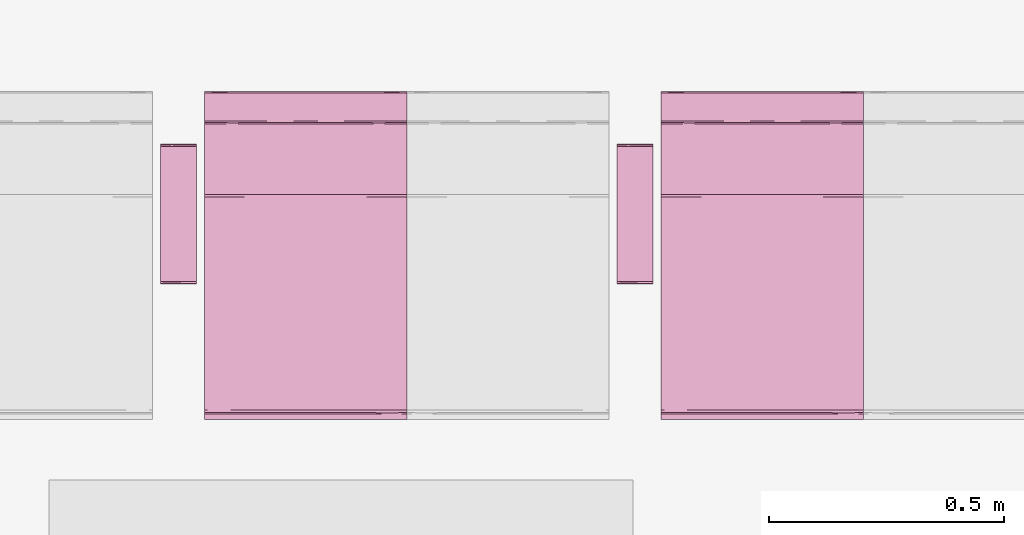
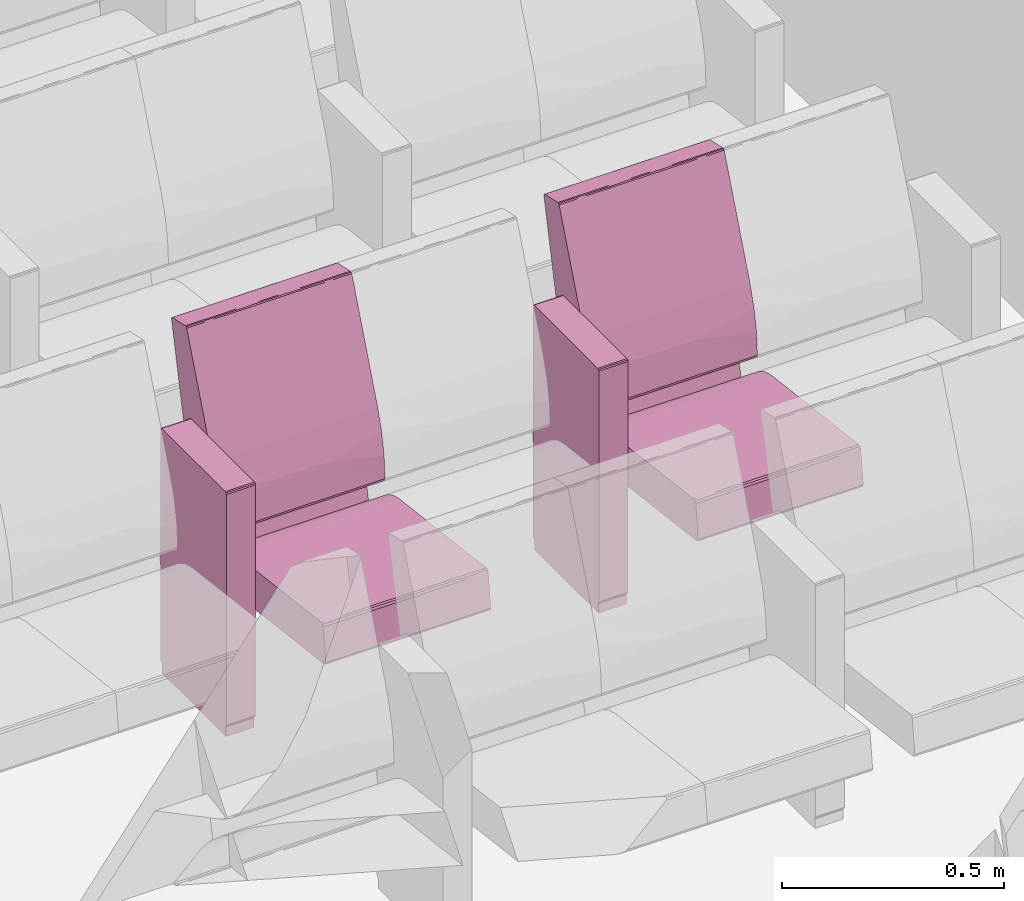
# One storey, part 136 of 155: 2 furnishings.
"""IFC2X3 building model written with IfcOpenShell, lengths in metres."""

from ifc_helpers import new_model, entity, si_unit, converted_unit, derived_unit, direction, frame, origin, place, context, subcontext, project, spatial, faceted_brep, source, transform, mapped, material, material_list, type_object, type_shapes, element, save


model = new_model("IFC2X3")

# Units and contexts
model_context = context("Model", 3, precision=1e-05, world=origin(), true_north=direction((6.12303176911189e-17, 1.0)))
body_context = subcontext(model_context, "Body", "Model", "MODEL_VIEW")
ifc_project = project(units=[si_unit("LENGTHUNIT", "METRE"), si_unit("AREAUNIT", "SQUARE_METRE"), si_unit("VOLUMEUNIT", "CUBIC_METRE"), converted_unit("PLANEANGLEUNIT", "DEGREE", entity("IfcRatioMeasure", 0.0174532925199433), si_unit("PLANEANGLEUNIT", "RADIAN"), dimensions=[0, 0, 0, 0, 0, 0, 0]), si_unit("MASSUNIT", "GRAM", prefix="KILO"), derived_unit("MASSDENSITYUNIT", [(si_unit("MASSUNIT", "GRAM", prefix="KILO"), 1), (si_unit("LENGTHUNIT", "METRE"), -3)]), si_unit("TIMEUNIT", "SECOND"), si_unit("FREQUENCYUNIT", "HERTZ"), si_unit("THERMODYNAMICTEMPERATUREUNIT", "DEGREE_CELSIUS"), derived_unit("THERMALTRANSMITTANCEUNIT", [(si_unit("MASSUNIT", "GRAM", prefix="KILO"), 1), (si_unit("THERMODYNAMICTEMPERATUREUNIT", "KELVIN"), -1), (si_unit("TIMEUNIT", "SECOND"), -3)]), derived_unit("VOLUMETRICFLOWRATEUNIT", [(si_unit("LENGTHUNIT", "METRE"), 3), (si_unit("TIMEUNIT", "SECOND"), -1)]), si_unit("ELECTRICCURRENTUNIT", "AMPERE"), si_unit("ELECTRICVOLTAGEUNIT", "VOLT"), si_unit("POWERUNIT", "WATT"), si_unit("FORCEUNIT", "NEWTON", prefix="KILO"), si_unit("ILLUMINANCEUNIT", "LUX"), si_unit("LUMINOUSFLUXUNIT", "LUMEN"), si_unit("LUMINOUSINTENSITYUNIT", "CANDELA"), derived_unit("USERDEFINED", [(si_unit("MASSUNIT", "GRAM", prefix="KILO"), -1), (si_unit("LENGTHUNIT", "METRE"), -2), (si_unit("TIMEUNIT", "SECOND"), 3), (si_unit("LUMINOUSFLUXUNIT", "LUMEN"), 1)]), derived_unit("LINEARVELOCITYUNIT", [(si_unit("LENGTHUNIT", "METRE"), 1), (si_unit("TIMEUNIT", "SECOND"), -1)]), si_unit("PRESSUREUNIT", "PASCAL"), derived_unit("USERDEFINED", [(si_unit("LENGTHUNIT", "METRE"), -2), (si_unit("MASSUNIT", "GRAM", prefix="KILO"), 1), (si_unit("TIMEUNIT", "SECOND"), -2)])], contexts=[model_context])

# Site, building, storey, space
site_placement = place(None, frame((26.9889013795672, -17.5624287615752, 0.0)))
site = spatial("IfcSite", under=ifc_project, at=site_placement, Name="Default", CompositionType="ELEMENT")
building_placement = place(site_placement, origin())
building = spatial("IfcBuilding", under=site, at=building_placement, Name="C. C. L. Monsenhor Antônio Sampaio", CompositionType="ELEMENT")
storey_placement = place(building_placement, frame((0.0, 0.0, 1.19999999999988)))
storey = spatial("IfcBuildingStorey", under=building, at=storey_placement, Name="Nível 1.2", CompositionType="ELEMENT", Elevation=1.19999999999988)
space_placement = place(storey_placement, origin())
space = spatial("IfcSpace", under=storey, at=space_placement, Name="94", CompositionType="ELEMENT", InteriorOrExteriorSpace="INTERNAL")

# Furnishings
ifc_material_1 = material(Name="V9 - V9 - Ecopelle_672_658")
ifc_material_2 = material(Name="V9 - V9 - RAL_9006_Grigio")
ifc_material_list_1 = material_list([ifc_material_1, ifc_material_2])
ifc_material_list_2 = material_list([ifc_material_1, ifc_material_2])
furniture_type = type_object("IfcFurnitureType", Name="Cadeira auditório", material=ifc_material_list_2)
shared_shape = source(origin(), body_context, "Body", "Brep", [
    faceted_brep([(0.405536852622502, 0.156348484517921, 0.339809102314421), (0.410560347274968, 0.131924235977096, 0.34246450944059), (0.405536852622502, 0.1075, 0.339809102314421), (0.405536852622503, 0.0537499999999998, 0.339809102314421), (0.410597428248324, 0.084060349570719, 0.342506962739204), (0.41079981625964, 0.0179166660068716, 0.342749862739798), (0.405536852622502, 0.215, 0.339809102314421), (0.410248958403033, 0.173608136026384, 0.342130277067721), (0.412515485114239, 0.185674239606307, 0.348529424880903), (0.412515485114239, 0.143333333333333, 0.348529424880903), (0.410560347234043, -0.131924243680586, 0.342464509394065), (0.405536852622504, -0.156348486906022, 0.33980910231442), (0.405536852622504, -0.1075, 0.33980910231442), (0.405536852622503, 0.0, 0.33980910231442), (0.41251548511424, 0.0, 0.348529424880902), (0.411170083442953, -0.0341365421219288, 0.343251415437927), (0.41059742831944, -0.0840603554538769, 0.342506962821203), (0.41251548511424, -0.143333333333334, 0.348529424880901), (0.412515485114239, 0.0358333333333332, 0.348529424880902), (0.412515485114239, 0.0716666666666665, 0.348529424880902), (0.405536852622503, -0.0537500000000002, 0.33980910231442), (0.412515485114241, -0.185674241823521, 0.348529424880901), (0.410799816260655, -0.215, 0.342749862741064), (0.410248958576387, -0.173608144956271, 0.342130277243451), (0.410799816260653, 0.215, 0.342749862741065), (0.412515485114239, 0.215, 0.348529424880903), (0.412515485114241, -0.215, 0.348529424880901), (0.41251548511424, -0.0716666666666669, 0.348529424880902), (0.405536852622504, -0.215, 0.33980910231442), (-0.0557900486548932, -0.215, 0.28268145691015), (-0.055790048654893, -0.168631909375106, 0.282681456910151), (-0.0557900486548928, -0.138065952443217, 0.282681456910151), (-0.0557900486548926, -0.107499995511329, 0.282681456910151), (-0.0557900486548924, -0.0806249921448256, 0.282681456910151), (-0.0557900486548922, -0.0537499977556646, 0.282681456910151), (-0.0557900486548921, -0.0268750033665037, 0.282681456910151), (-0.0557900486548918, 0.0, 0.28268145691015), (-0.0557900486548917, 0.0268749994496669, 0.282681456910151), (-0.0557900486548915, 0.0537499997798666, 0.282681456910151), (-0.0557900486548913, 0.0806250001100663, 0.282681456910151), (-0.0557900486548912, 0.107499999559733, 0.282681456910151), (-0.055790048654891, 0.134374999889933, 0.282681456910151), (-0.0557900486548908, 0.161250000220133, 0.282681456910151), (-0.0557900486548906, 0.1881249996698, 0.282681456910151), (-0.0557900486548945, 0.215, 0.28268145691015), (-0.0594787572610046, -0.0152829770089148, 0.283700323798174), (-0.0613666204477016, 0.0, 0.287029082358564), (-0.0594787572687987, 0.0179017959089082, 0.283700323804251), (-0.0613666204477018, 0.191815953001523, 0.287029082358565), (-0.0613666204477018, 0.215, 0.287029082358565), (-0.0594787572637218, 0.215, 0.283700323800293), (-0.0593340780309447, 0.0671874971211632, 0.283591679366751), (-0.0613666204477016, 0.030565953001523, 0.287029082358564), (-0.0594787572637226, -0.215, 0.283700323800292), (-0.0593337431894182, -0.184174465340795, 0.283591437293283), (-0.0613666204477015, -0.122263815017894, 0.287029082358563), (-0.0613666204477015, -0.0916978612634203, 0.287029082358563), (-0.0613666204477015, -0.0611319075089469, 0.287029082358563), (-0.0593023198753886, -0.0940625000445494, 0.283568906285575), (-0.059382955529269, 0.118123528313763, 0.28362747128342), (-0.0613666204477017, 0.122263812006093, 0.287029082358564), (-0.0597338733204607, 0.147039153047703, 0.283913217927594), (-0.0613666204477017, 0.168631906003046, 0.287029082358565), (-0.0592501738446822, 0.180223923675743, 0.283532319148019), (-0.0588783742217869, 0.0926899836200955, 0.283298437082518), (-0.0613666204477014, -0.215, 0.287029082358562), (-0.0613666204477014, -0.168631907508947, 0.287029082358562), (-0.0592576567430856, -0.123736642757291, 0.283537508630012), (-0.0594787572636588, -0.153348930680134, 0.283700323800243), (-0.0613666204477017, 0.0916978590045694, 0.287029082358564), (-0.0613666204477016, -0.0305659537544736, 0.287029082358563), (-0.059645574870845, -0.045848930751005, 0.283836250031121), (-0.0613666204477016, 0.0611319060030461, 0.287029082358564), (-0.069340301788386, -0.215, 0.351419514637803), (-0.0693403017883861, -0.143333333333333, 0.351419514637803), (-0.0693403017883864, -0.0716666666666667, 0.351419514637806), (-0.0693403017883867, 0.0, 0.351419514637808), (-0.069340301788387, 0.0716666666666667, 0.351419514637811), (-0.0693403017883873, 0.143333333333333, 0.351419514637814), (-0.0693403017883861, 0.215, 0.351419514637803), (-0.0597085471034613, 0.0, 0.37476954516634), (-0.0645543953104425, 0.112272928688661, 0.369803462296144), (-0.0653387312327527, 0.0126787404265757, 0.368680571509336), (-0.0681665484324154, -0.0888707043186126, 0.36292533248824), (-0.0655136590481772, -0.10440004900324, 0.368411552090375), (-0.0694879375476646, 0.0590582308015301, 0.356377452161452), (-0.0695056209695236, -0.125492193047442, 0.356093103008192), (-0.0597085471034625, -0.110316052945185, 0.374769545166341), (-0.0690003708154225, 0.132942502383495, 0.359900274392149), (-0.0672851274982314, 0.108066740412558, 0.365148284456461), (-0.0676206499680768, 0.215, 0.364371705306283), (-0.0686241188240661, 0.215, 0.356813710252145), (-0.0686241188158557, -0.214999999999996, 0.356813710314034), (-0.0686999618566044, 0.0358333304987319, 0.36116674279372), (-0.0694502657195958, -0.0358333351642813, 0.356863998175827), (-0.0676206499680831, -0.214999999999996, 0.364371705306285), (-0.0636645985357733, -0.214999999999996, 0.369570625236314), (-0.0597085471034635, -0.214999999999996, 0.374769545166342), (-0.0597085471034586, 0.215, 0.374769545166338), (-0.0636645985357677, 0.215, 0.36957062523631), (-0.0597085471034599, 0.110316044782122, 0.374769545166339), (-0.0324117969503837, 0.215, 0.390639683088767), (-0.0324117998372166, 0.0436847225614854, 0.39063968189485), (-0.0018793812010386, 0.215, 0.398686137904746), (-0.041847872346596, -0.0856576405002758, 0.386239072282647), (-0.0324117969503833, -0.215, 0.390639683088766), (-0.00187938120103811, -0.215, 0.398686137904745), (-0.00187938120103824, -0.102488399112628, 0.398686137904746), (-0.0219042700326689, -0.0570631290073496, 0.394412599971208), (-0.00187938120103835, 0.0, 0.398686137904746), (0.392202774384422, 0.215, 0.447486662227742), (0.392202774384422, -0.215, 0.447486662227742), (0.392202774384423, -0.156349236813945, 0.447486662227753), (0.392202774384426, -0.107499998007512, 0.447486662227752), (0.392202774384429, -0.0537500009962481, 0.44748666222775), (0.392202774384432, 0.0, 0.447486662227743), (0.392202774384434, 0.0537499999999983, 0.447486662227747), (0.392202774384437, 0.107499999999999, 0.447486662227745), (0.392202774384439, 0.156349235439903, 0.447486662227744), (0.398104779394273, -0.131924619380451, 0.445856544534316), (0.401125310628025, -0.0976984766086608, 0.440530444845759), (0.397860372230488, -0.0827732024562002, 0.446039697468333), (0.401125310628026, -0.215000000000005, 0.440530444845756), (0.401125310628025, -0.156349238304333, 0.440530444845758), (0.397373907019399, -0.173462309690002, 0.446363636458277), (0.398104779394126, -0.215000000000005, 0.445856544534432), (0.397860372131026, 0.0827731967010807, 0.446039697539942), (0.398104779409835, 0.131924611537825, 0.445856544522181), (0.398104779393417, -0.0237489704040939, 0.445856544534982), (0.398104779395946, 0.0268749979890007, 0.445856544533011), (0.401125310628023, 0.0488492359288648, 0.440530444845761), (0.401125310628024, -0.0488492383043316, 0.440530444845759), (0.398774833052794, 0.173462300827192, 0.445271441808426), (0.401125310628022, 0.097698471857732, 0.440530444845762), (0.401125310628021, 0.215, 0.440530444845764), (0.39810477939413, 0.215, 0.445856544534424), (0.401125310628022, 0.156349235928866, 0.440530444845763), (0.401125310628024, 0.0, 0.44053044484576)], [[[0, 1, 2]], [[3, 4, 5]], [[6, 7, 0]], [[7, 8, 9]], [[10, 11, 12]], [[3, 5, 13]], [[14, 15, 5]], [[16, 17, 10]], [[9, 1, 7]], [[18, 5, 4]], [[4, 9, 19, 18]], [[9, 4, 1]], [[2, 1, 4]], [[13, 15, 20]], [[21, 22, 23]], [[5, 18, 14]], [[24, 25, 8]], [[22, 21, 26]], [[24, 7, 6]], [[23, 11, 10]], [[20, 15, 16]], [[3, 2, 4]], [[14, 27, 15]], [[5, 15, 13]], [[27, 17, 16]], [[10, 12, 16]], [[21, 23, 17]], [[20, 16, 12]], [[15, 27, 16]], [[7, 1, 0]], [[28, 11, 23]], [[8, 7, 24]], [[23, 10, 17]], [[28, 23, 22]], [[28, 29, 30, 31, 32, 33, 34, 35, 36, 37, 38, 39, 40, 41, 42, 43, 44, 6, 0, 2, 3, 13, 20, 12, 11]], [[45, 46, 47]], [[48, 49, 50]], [[51, 47, 52]], [[29, 53, 54]], [[55, 56, 57, 58]], [[59, 60, 61]], [[61, 62, 63]], [[51, 64, 39]], [[65, 66, 54]], [[31, 67, 32]], [[45, 47, 38, 37, 36, 35]], [[68, 31, 30]], [[43, 50, 44]], [[63, 42, 61]], [[48, 50, 63]], [[64, 69, 59]], [[68, 54, 66]], [[63, 62, 48]], [[50, 43, 63]], [[67, 55, 58]], [[61, 42, 41]], [[45, 70, 46]], [[55, 68, 66]], [[71, 33, 58]], [[71, 57, 70]], [[41, 40, 59]], [[60, 62, 61]], [[71, 35, 34, 33]], [[35, 71, 45]], [[47, 46, 52]], [[45, 71, 70]], [[58, 57, 71]], [[32, 58, 33]], [[31, 68, 67]], [[54, 68, 30]], [[29, 54, 30]], [[54, 53, 65]], [[55, 67, 68]], [[32, 67, 58]], [[51, 52, 72, 69]], [[43, 42, 63]], [[41, 59, 61]], [[47, 51, 38]], [[40, 39, 64]], [[38, 51, 39]], [[69, 60, 59]], [[69, 64, 51]], [[40, 64, 59]], [[65, 73, 74, 75, 76, 77, 78, 79, 49, 48, 62, 60, 69, 72, 52, 46, 70, 57, 56, 55, 66]], [[80, 81, 82]], [[82, 83, 84]], [[78, 77, 76, 85]], [[86, 75, 74]], [[84, 80, 82]], [[80, 84, 87]], [[88, 89, 90]], [[91, 79, 78]], [[74, 73, 92]], [[85, 88, 91]], [[81, 89, 82]], [[93, 94, 83]], [[94, 86, 83]], [[85, 76, 94]], [[92, 86, 74]], [[85, 94, 93]], [[83, 92, 95]], [[75, 94, 76]], [[93, 83, 82]], [[95, 96, 84]], [[88, 85, 93]], [[96, 97, 87]], [[98, 99, 100]], [[78, 85, 91]], [[89, 88, 93]], [[90, 91, 88]], [[93, 82, 89]], [[81, 99, 89]], [[99, 90, 89]], [[100, 81, 80]], [[100, 99, 81]], [[83, 86, 92]], [[75, 86, 94]], [[95, 84, 83]], [[87, 84, 96]], [[101, 102, 103]], [[104, 80, 87, 97]], [[105, 106, 107]], [[107, 108, 105]], [[103, 102, 109]], [[104, 102, 80]], [[104, 108, 102]], [[98, 102, 101]], [[105, 104, 97]], [[105, 108, 104]], [[102, 98, 100, 80]], [[109, 108, 107]], [[109, 102, 108]], [[110, 103, 109, 107, 106, 111, 112, 113, 114, 115, 116, 117, 118]], [[119, 120, 121]], [[122, 123, 124]], [[111, 125, 124]], [[117, 116, 126]], [[124, 119, 112]], [[113, 112, 119]], [[127, 118, 117]], [[115, 114, 128, 129, 116]], [[129, 130, 126]], [[121, 131, 128]], [[127, 132, 118]], [[110, 118, 132]], [[127, 126, 133]], [[119, 124, 123]], [[134, 135, 132]], [[136, 132, 127]], [[120, 119, 123]], [[133, 136, 127]], [[137, 130, 129, 128, 131]], [[126, 127, 117]], [[130, 133, 126]], [[113, 119, 121]], [[129, 126, 116]], [[128, 114, 121]], [[114, 113, 121]], [[131, 121, 120]], [[111, 124, 112]], [[124, 125, 122]], [[134, 132, 136]], [[132, 135, 110]], [[19, 9, 8, 25, 134, 136, 133, 130, 137, 131, 120, 123, 122, 26, 21, 17, 27, 14, 18]], [[65, 53, 29, 28, 22, 26, 122, 125, 111, 106, 105, 97, 96, 95, 92, 73]], [[98, 101, 103, 110, 135, 134, 25, 24, 6, 44, 50, 49, 79, 91, 90, 99]]]),
    faceted_brep([(0.123144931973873, -0.283972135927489, 0.673627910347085), (0.12334838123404, -0.259944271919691, 0.6734355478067), (0.119812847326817, -0.27, 0.674900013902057), (0.124812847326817, -0.27, 0.669900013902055), (0.12334838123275, -0.232, 0.673435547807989), (0.119812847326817, -0.232, 0.674900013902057), (0.124812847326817, -0.308, 0.669900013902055), (0.119812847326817, -0.308, 0.674900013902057), (0.124812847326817, -0.249888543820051, 0.669900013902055), (0.124812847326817, -0.232, 0.669900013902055), (0.12334838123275, -0.308, 0.673435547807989), (0.124812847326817, -0.27, 0.035), (0.124812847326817, -0.232, 0.035), (0.124812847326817, -0.308, 0.0350000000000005), (0.123540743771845, -0.283972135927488, 0.0316679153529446), (0.12334838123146, -0.25994427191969, 0.0314644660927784), (0.119812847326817, -0.27, 0.0300000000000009), (0.12334838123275, -0.232, 0.0314644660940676), (0.119812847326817, -0.308, 0.0300000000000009), (0.119812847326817, -0.249888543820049, 0.030000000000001), (0.119812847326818, -0.232, 0.030000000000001), (0.123348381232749, -0.308, 0.0314644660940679), (-0.167179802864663, -0.308, 0.0300000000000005), (-0.167179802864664, -0.27, 0.0300000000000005), (-0.167179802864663, -0.232, 0.0300000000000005), (-0.17051188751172, -0.283972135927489, 0.0312721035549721), (-0.170715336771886, -0.25994427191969, 0.0314644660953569), (-0.172179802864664, -0.27, 0.0350000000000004), (-0.170715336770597, -0.232, 0.0314644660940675), (-0.172179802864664, -0.308, 0.0350000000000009), (-0.172179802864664, -0.24988854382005, 0.0350000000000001), (-0.172179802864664, -0.232, 0.0349999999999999), (-0.170715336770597, -0.308, 0.0314644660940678), (-0.172179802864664, -0.308, 0.669900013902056), (-0.172179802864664, -0.27, 0.669900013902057), (-0.172179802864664, -0.232, 0.669900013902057), (-0.170907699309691, -0.283972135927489, 0.673232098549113), (-0.170715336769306, -0.259944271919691, 0.673435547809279), (-0.167179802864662, -0.27, 0.674900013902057), (-0.170715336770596, -0.232, 0.67343554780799), (-0.167179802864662, -0.308, 0.674900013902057), (-0.167179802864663, -0.249888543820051, 0.674900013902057), (-0.167179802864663, -0.232, 0.674900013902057), (-0.170715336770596, -0.308, 0.67343554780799)], [[[0, 1, 2]], [[1, 0, 3]], [[1, 4, 5, 2]], [[6, 3, 0]], [[7, 0, 2]], [[4, 1, 3, 8, 9]], [[10, 0, 7]], [[0, 10, 6]], [[11, 12, 9, 8, 3, 6, 13]], [[14, 15, 11]], [[15, 14, 16]], [[15, 17, 12, 11]], [[18, 16, 14]], [[13, 14, 11]], [[17, 15, 16, 19, 20]], [[21, 14, 13]], [[14, 21, 18]], [[18, 22, 23, 24, 20, 19, 16]], [[25, 26, 23]], [[26, 25, 27]], [[26, 28, 24, 23]], [[29, 27, 25]], [[22, 25, 23]], [[28, 26, 27, 30, 31]], [[32, 25, 22]], [[25, 32, 29]], [[27, 29, 33, 34, 35, 31, 30]], [[36, 37, 34]], [[37, 36, 38]], [[37, 39, 35, 34]], [[40, 38, 36]], [[33, 36, 34]], [[39, 37, 38, 41, 42]], [[43, 36, 33]], [[36, 43, 40]], [[40, 7, 2, 5, 42, 41, 38]], [[35, 39, 42, 5, 4, 9, 12, 17, 20, 24, 28, 31]], [[29, 32, 22, 18, 21, 13, 6, 10, 7, 40, 43, 33]]]),
    faceted_brep([(-0.0695672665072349, 0.215, 0.476508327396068), (-0.074405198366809, 0.0524423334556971, 0.506888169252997), (-0.0655618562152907, 0.215, 0.415143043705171), (-0.0744051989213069, -0.0780075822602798, 0.506888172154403), (-0.0655618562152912, 0.0, 0.415143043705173), (-0.0655618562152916, -0.215, 0.415143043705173), (-0.0655618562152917, -0.1075, 0.415143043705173), (-0.0655618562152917, 0.1075, 0.415143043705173), (-0.0695672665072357, -0.215, 0.476508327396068), (-0.081111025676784, -0.215, 0.536911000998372), (-0.0811110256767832, 0.215, 0.536911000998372), (-0.100016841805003, 0.215, 0.595428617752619), (-0.100016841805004, 0.0, 0.595428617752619), (-0.100016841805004, -0.215, 0.595428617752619), (-0.0698317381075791, 0.0358333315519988, 0.406528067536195), (-0.0792851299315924, 0.0, 0.404772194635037), (-0.0792851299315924, 0.0716666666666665, 0.404772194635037), (-0.0792851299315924, -0.215, 0.404772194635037), (-0.0792851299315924, -0.143333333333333, 0.404772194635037), (-0.0698317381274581, -0.215, 0.406528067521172), (-0.0792851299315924, 0.143333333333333, 0.404772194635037), (-0.0792851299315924, 0.215, 0.404772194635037), (-0.0698317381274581, 0.215, 0.406528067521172), (-0.0694171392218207, 0.140338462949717, 0.406857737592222), (-0.0708115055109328, -0.0356393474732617, 0.405868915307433), (-0.0703502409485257, -0.107500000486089, 0.406159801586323), (-0.0792851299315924, -0.0716666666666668, 0.404772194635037), (-0.163837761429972, -0.215, 0.420611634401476), (-0.163837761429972, 0.215, 0.420611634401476), (-0.123612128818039, 0.215, 0.235917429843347), (-0.123612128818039, -0.215, 0.235917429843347), (-0.142059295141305, -0.215, 0.231899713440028), (-0.142059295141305, 0.215, 0.231899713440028), (-0.235388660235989, -0.215, 0.652619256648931), (-0.235388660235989, 0.215, 0.652619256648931), (-0.28428001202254, -0.215, 0.873004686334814), (-0.284280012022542, -0.191295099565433, 0.873004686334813), (-0.284280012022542, -0.161249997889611, 0.873004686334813), (-0.284280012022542, -0.134374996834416, 0.873004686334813), (-0.284280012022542, -0.107499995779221, 0.873004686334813), (-0.284280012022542, -0.0806249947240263, 0.873004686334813), (-0.284280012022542, -0.0537499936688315, 0.873004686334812), (-0.284280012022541, -0.0268749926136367, 0.873004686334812), (-0.28428001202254, 0.0, 0.873004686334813), (-0.284280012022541, 0.0268749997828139, 0.873004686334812), (-0.284280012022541, 0.0537500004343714, 0.873004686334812), (-0.284280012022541, 0.0806250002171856, 0.873004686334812), (-0.284280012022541, 0.1075, 0.873004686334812), (-0.284280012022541, 0.134374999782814, 0.873004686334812), (-0.28428001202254, 0.161249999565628, 0.873004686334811), (-0.28428001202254, 0.191295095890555, 0.873004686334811), (-0.28428001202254, 0.215, 0.873004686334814), (-0.283746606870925, 0.0872244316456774, 0.876674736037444), (-0.283504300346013, 0.0569644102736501, 0.877068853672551), (-0.283567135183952, -0.15546176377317, 0.876973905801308), (-0.283641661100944, -0.12093750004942, 0.87685511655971), (-0.283567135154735, 0.155461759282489, 0.876973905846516), (-0.28330409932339, 0.185293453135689, 0.877344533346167), (-0.283641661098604, 0.0179166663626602, 0.876855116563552), (-0.283641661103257, -0.0136463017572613, 0.876855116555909), (-0.280514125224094, -0.0358333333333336, 0.879190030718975), (-0.280514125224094, 0.0, 0.879190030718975), (-0.280514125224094, 0.0358333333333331, 0.879190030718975), (-0.280514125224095, -0.143333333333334, 0.879190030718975), (-0.280514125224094, -0.1075, 0.879190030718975), (-0.280514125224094, -0.071666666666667, 0.879190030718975), (-0.283746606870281, -0.0872244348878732, 0.876674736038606), (-0.280514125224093, 0.0716666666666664, 0.879190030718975), (-0.280514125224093, 0.1075, 0.879190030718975), (-0.283641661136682, 0.120937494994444, 0.876855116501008), (-0.280514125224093, 0.143333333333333, 0.879190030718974), (-0.283641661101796, 0.215, 0.876855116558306), (-0.283641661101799, -0.215, 0.876855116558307), (-0.283304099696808, -0.18529345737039, 0.877344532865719), (-0.280514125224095, -0.167590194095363, 0.879190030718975), (-0.280514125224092, 0.215, 0.879190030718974), (-0.280514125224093, 0.167590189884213, 0.879190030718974), (-0.280514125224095, -0.215, 0.879190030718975), (-0.283504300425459, -0.0569644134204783, 0.8770688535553), (-0.22111253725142, 0.215, 0.892176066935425), (-0.22111253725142, -0.215, 0.892176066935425), (-0.221112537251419, -0.191815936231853, 0.892176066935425), (-0.221112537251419, -0.161250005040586, 0.892176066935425), (-0.221112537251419, -0.134375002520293, 0.892176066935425), (-0.221112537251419, -0.1075, 0.892176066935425), (-0.221112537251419, -0.080624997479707, 0.892176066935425), (-0.221112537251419, -0.0537499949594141, 0.892176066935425), (-0.221112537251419, -0.0268750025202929, 0.892176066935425), (-0.221112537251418, 0.0, 0.892176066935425), (-0.221112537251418, 0.0268750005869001, 0.892176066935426), (-0.221112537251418, 0.05375000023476, 0.892176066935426), (-0.221112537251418, 0.0806249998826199, 0.892176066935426), (-0.221112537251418, 0.10749999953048, 0.892176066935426), (-0.221112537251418, 0.13437499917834, 0.892176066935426), (-0.221112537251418, 0.16124999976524, 0.892176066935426), (-0.221112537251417, 0.19181594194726, 0.892176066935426), (-0.215419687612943, 0.0, 0.889191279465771), (-0.215419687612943, 0.0358333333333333, 0.889191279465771), (-0.217722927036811, 0.0162353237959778, 0.891719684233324), (-0.217722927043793, -0.0134375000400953, 0.891719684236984), (-0.215419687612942, -0.191815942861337, 0.889191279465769), (-0.215419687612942, -0.168631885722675, 0.889191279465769), (-0.217722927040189, -0.182482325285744, 0.891719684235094), (-0.217722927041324, -0.215, 0.891719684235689), (-0.215419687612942, -0.215, 0.889191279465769), (-0.215419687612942, -0.1075, 0.88919127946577), (-0.215419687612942, -0.0716666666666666, 0.88919127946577), (-0.217722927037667, -0.0912646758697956, 0.891719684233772), (-0.217722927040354, -0.120937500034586, 0.89171968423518), (-0.215419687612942, -0.143333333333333, 0.88919127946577), (-0.215419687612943, 0.191815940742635, 0.889191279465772), (-0.215419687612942, 0.215, 0.889191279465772), (-0.217722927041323, 0.215, 0.89171968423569), (-0.217722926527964, 0.190103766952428, 0.891719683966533), (-0.217722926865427, 0.0912646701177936, 0.891719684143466), (-0.217816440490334, 0.0647800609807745, 0.891767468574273), (-0.215419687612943, 0.0716666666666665, 0.889191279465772), (-0.217816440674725, -0.0647800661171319, 0.891767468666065), (-0.2179983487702, -0.0390825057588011, 0.891853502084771), (-0.217558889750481, -0.155982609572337, 0.891629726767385), (-0.217722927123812, 0.120937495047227, 0.891719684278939), (-0.215419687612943, 0.16863188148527, 0.889191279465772), (-0.215419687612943, 0.143333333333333, 0.889191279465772), (-0.217558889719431, 0.15598260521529, 0.891629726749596), (-0.215419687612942, -0.0358333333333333, 0.889191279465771), (-0.215419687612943, 0.1075, 0.889191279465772), (-0.218257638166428, 0.0404491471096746, 0.891961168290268)], [[[0, 1, 2]], [[1, 3, 4]], [[3, 5, 6, 4]], [[1, 4, 7, 2]], [[5, 3, 8]], [[8, 3, 9]], [[0, 10, 1]], [[11, 12, 1]], [[3, 13, 9]], [[3, 12, 13]], [[11, 1, 10]], [[3, 1, 12]], [[14, 15, 16]], [[17, 18, 19]], [[20, 21, 22]], [[2, 23, 22]], [[14, 7, 4]], [[14, 24, 15]], [[6, 25, 24]], [[22, 23, 20]], [[14, 23, 7]], [[19, 6, 5]], [[4, 24, 14]], [[16, 23, 14]], [[16, 20, 23]], [[26, 25, 18]], [[25, 19, 18]], [[15, 24, 26]], [[23, 2, 7]], [[19, 25, 6]], [[26, 24, 25]], [[6, 24, 4]], [[15, 26, 18, 17, 27, 28, 21, 20, 16]], [[29, 28, 27, 30]], [[30, 31, 32, 29]], [[32, 31, 33, 34]], [[34, 33, 35, 36, 37, 38, 39, 40, 41, 42, 43, 44, 45, 46, 47, 48, 49, 50, 51]], [[52, 46, 53]], [[38, 54, 55]], [[56, 57, 49]], [[58, 59, 60, 61, 62]], [[63, 64, 55]], [[64, 65, 66]], [[52, 67, 68]], [[69, 70, 56]], [[49, 57, 50]], [[38, 55, 39]], [[71, 51, 50]], [[36, 35, 72]], [[59, 58, 44, 43, 42]], [[73, 74, 54]], [[55, 66, 39]], [[75, 57, 76]], [[77, 74, 73]], [[69, 52, 68]], [[37, 36, 73]], [[54, 74, 63]], [[56, 76, 57]], [[36, 72, 73]], [[75, 71, 57]], [[70, 76, 56]], [[52, 69, 47]], [[48, 47, 69]], [[42, 78, 59]], [[66, 55, 64]], [[50, 57, 71]], [[73, 54, 37]], [[77, 73, 72]], [[48, 69, 56]], [[56, 49, 48]], [[69, 68, 70]], [[53, 46, 45, 44]], [[58, 62, 53]], [[53, 44, 58]], [[38, 37, 54]], [[63, 55, 54]], [[78, 66, 65]], [[78, 40, 66]], [[67, 52, 53]], [[78, 42, 41, 40]], [[65, 60, 78]], [[59, 78, 60]], [[52, 47, 46]], [[40, 39, 66]], [[62, 67, 53]], [[79, 75, 76, 70, 68, 67, 62, 61, 60, 65, 64, 63, 74, 77, 80, 81, 82, 83, 84, 85, 86, 87, 88, 89, 90, 91, 92, 93, 94, 95]], [[96, 97, 98, 99]], [[100, 101, 102, 103, 104]], [[105, 106, 107, 108, 109]], [[110, 111, 112]], [[113, 112, 95]], [[114, 115, 116]], [[117, 118, 86]], [[82, 119, 83]], [[102, 82, 81, 80, 103]], [[112, 79, 95]], [[108, 107, 85, 84, 83]], [[88, 87, 99, 98, 89]], [[119, 101, 109]], [[93, 92, 120]], [[117, 85, 107]], [[113, 121, 110]], [[122, 121, 123]], [[113, 94, 123]], [[124, 99, 118]], [[122, 123, 120]], [[108, 119, 109]], [[113, 110, 112]], [[102, 101, 119]], [[119, 108, 83]], [[114, 125, 120]], [[123, 94, 93]], [[93, 120, 123]], [[114, 120, 92]], [[122, 120, 125]], [[117, 107, 106]], [[114, 92, 91]], [[116, 125, 114]], [[115, 91, 90]], [[85, 117, 86]], [[126, 89, 98]], [[117, 106, 124]], [[118, 99, 87]], [[124, 96, 99]], [[97, 116, 115]], [[97, 115, 126]], [[86, 118, 87]], [[124, 118, 117]], [[91, 115, 114]], [[115, 90, 126]], [[89, 126, 90]], [[97, 126, 98]], [[82, 102, 119]], [[94, 113, 95]], [[121, 113, 123]], [[11, 111, 110, 121, 122, 125, 116, 97, 96, 124, 106, 105, 109, 101, 100, 104, 13, 12]], [[27, 17, 19, 5, 8, 9, 13, 104, 103, 80, 77, 72, 35, 33, 31, 30]], [[51, 71, 75, 79, 112, 111, 11, 10, 0, 2, 22, 21, 28, 29, 32, 34]]]),
    faceted_brep([(0.120312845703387, -0.2335, 0.0), (0.120312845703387, -0.2335, 0.0260000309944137), (0.120312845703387, -0.249500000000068, 0.0260000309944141), (0.120312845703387, -0.27, 0.0260000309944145), (0.120312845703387, -0.3065, 0.0260000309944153), (0.120312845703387, -0.3065, 0.0), (-0.167687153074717, -0.3065, 0.0), (-0.167687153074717, -0.2335, 0.0), (-0.167687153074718, -0.27, 0.0260000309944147), (-0.167687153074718, -0.2335, 0.0260000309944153), (-0.167687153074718, -0.3065, 0.0260000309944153), (-0.166521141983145, -0.233500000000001, 0.0288228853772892), (-0.166521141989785, -0.257382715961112, 0.0288228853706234), (-0.163702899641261, -0.233500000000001, 0.0300000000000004), (-0.163702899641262, -0.3065, 0.0300000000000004), (-0.16652114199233, -0.279986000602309, 0.0288228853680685), (-0.166521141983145, -0.3065, 0.0288228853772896), (-0.163702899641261, -0.27, 0.0300000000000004), (0.116297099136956, -0.3065, 0.0300000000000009), (0.116297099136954, -0.269999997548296, 0.0300000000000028), (0.116297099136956, -0.2335, 0.0300000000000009), (0.119033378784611, -0.283124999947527, 0.0289323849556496), (0.1191357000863, -0.2335, 0.0288340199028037), (0.119135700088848, -0.259750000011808, 0.0288340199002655), (0.119135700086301, -0.3065, 0.0288340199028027)], [[[0, 1, 2, 3, 4, 5]], [[0, 5, 6, 7]], [[8, 9, 7, 6, 10]], [[11, 12, 13]], [[14, 15, 16]], [[15, 14, 17, 13, 12]], [[9, 8, 12, 11]], [[16, 15, 10]], [[8, 10, 15, 12]], [[14, 18, 19, 20, 13, 17]], [[21, 4, 3]], [[22, 20, 19, 23]], [[3, 2, 1, 22, 23]], [[24, 21, 18]], [[21, 3, 23]], [[18, 21, 19]], [[21, 24, 4]], [[21, 23, 19]], [[6, 5, 4, 24, 18, 14, 16, 10]], [[7, 9, 11, 13, 20, 22, 1, 0]]]),
])
type_shapes(furniture_type, [shared_shape])
furnishing_1_placement = place(space_placement, frame((-8.06594929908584, -12.3788058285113, 0.0), z_axis=(0.0, 0.0, 1.0), x_axis=(0.0, -1.0, 0.0)))
element("IfcFurnishingElement", 1, at=furnishing_1_placement, inside=space, type_object=furniture_type, material=ifc_material_list_1, Name="cadeira auditório pcd:Cadeira auditório", ObjectType="Cadeira auditório", context=body_context, shape_type="MappedRepresentation", body=[
    mapped(shared_shape, transform((0.0, 0.0, 0.0), scale=1.0)),
])
ifc_material_list_3 = material_list([ifc_material_1, ifc_material_2])
furnishing_2_placement = place(space_placement, frame((-7.09594929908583, -12.3788058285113, 0.0), z_axis=(0.0, 0.0, 1.0), x_axis=(0.0, -1.0, 0.0)))
element("IfcFurnishingElement", 2, at=furnishing_2_placement, inside=space, type_object=furniture_type, material=ifc_material_list_3, Name="cadeira auditório pcd:Cadeira auditório", ObjectType="Cadeira auditório", context=body_context, shape_type="MappedRepresentation", body=[
    mapped(shared_shape, transform((0.0, 0.0, 0.0), scale=1.0)),
])

save(model, "model.ifc")
